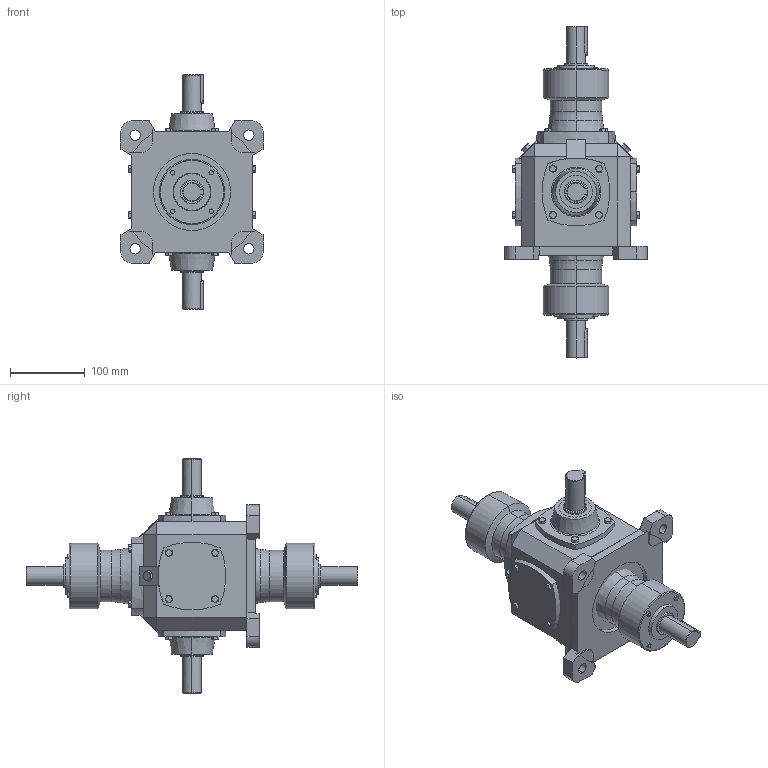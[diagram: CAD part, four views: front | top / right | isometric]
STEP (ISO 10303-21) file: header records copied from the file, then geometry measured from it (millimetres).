
FILE_DESCRIPTION (( 'STEP AP203' ), '1' );
FILE_NAME ('TC6-1-WXH1-E3.step', '2018-07-14T02:15:36', ( 'IT Division' ), ( 'IT' ), 'SwSTEP 2.0', 'SolidWorks 2016', '' );
FILE_SCHEMA (( 'CONFIG_CONTROL_DESIGN' ));
Length unit declared in the file: millimetre
Products named in the file (1): TC6-1-WXH1-E3
Bounding box: 190 x 444 x 314 mm (x, y, z)
Volume: 4607234 mm3; surface area: 280226.3 mm2
Topology: 2 solids, 2 shells, 684 faces, 1621 edges, 988 vertices
Faces by surface type: plane 327, cone 238, cylinder 103, torus 16
Entity records: 20583 total; most frequent: CARTESIAN_POINT 5265, ORIENTED_EDGE 3242, DIRECTION 3037, EDGE_CURVE 1621, AXIS2_PLACEMENT_3D 1132, VERTEX_POINT 988, LINE 773, VECTOR 773
